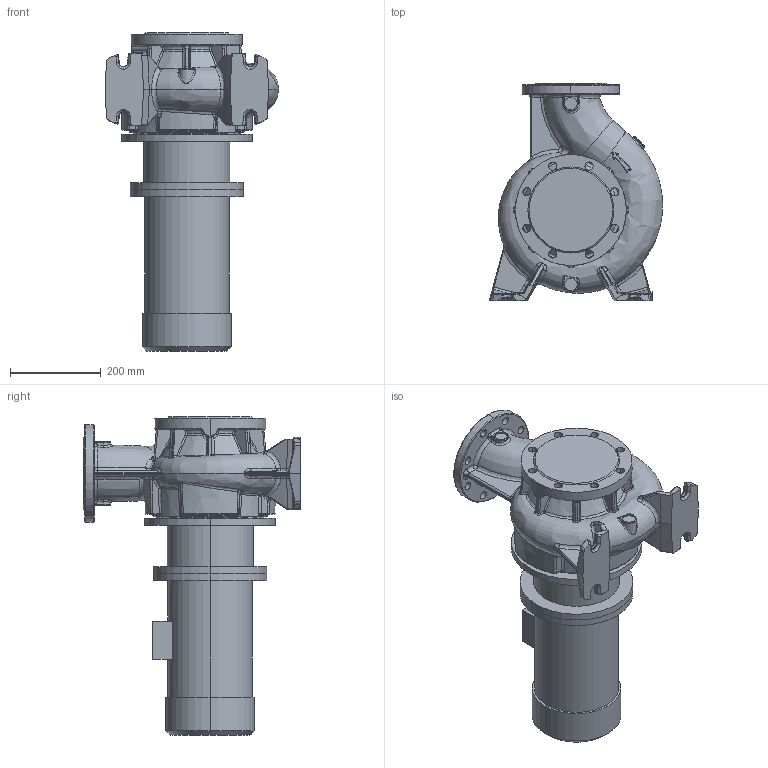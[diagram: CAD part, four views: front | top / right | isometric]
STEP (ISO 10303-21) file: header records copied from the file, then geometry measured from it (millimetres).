
FILE_DESCRIPTION (( 'STEP AP214' ), '1' );
FILE_NAME ('KRM 125-100-160-4-3.STEP', '2026-04-22T08:15:04', ( '' ), ( '' ), 'SwSTEP 2.0', 'SolidWorks 2016', '' );
FILE_SCHEMA (( 'AUTOMOTIVE_DESIGN' ));
Length unit declared in the file: millimetre
Products named in the file (1): KRM 125-100-160-4-3
Bounding box: 382.65 x 480 x 702.8 mm (x, y, z)
Volume: 33073790.4 mm3; surface area: 1369473.6 mm2
Topology: 4 solids, 4 shells, 1104 faces, 2632 edges, 1523 vertices
Faces by surface type: bspline 476, cylinder 259, plane 163, torus 101, cone 58, sphere 47
Entity records: 87233 total; most frequent: CARTESIAN_POINT 53217, ORIENTED_EDGE 5200, DIRECTION 3830, EDGE_CURVE 2600, AXIS2_PLACEMENT_3D 1667, VERTEX_POINT 1523, EDGE_LOOP 1155, UNCERTAINTY_MEASURE_WITH_UNIT 1110
